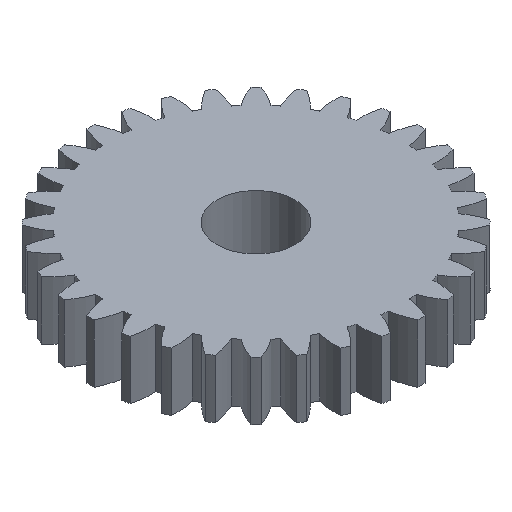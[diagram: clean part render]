
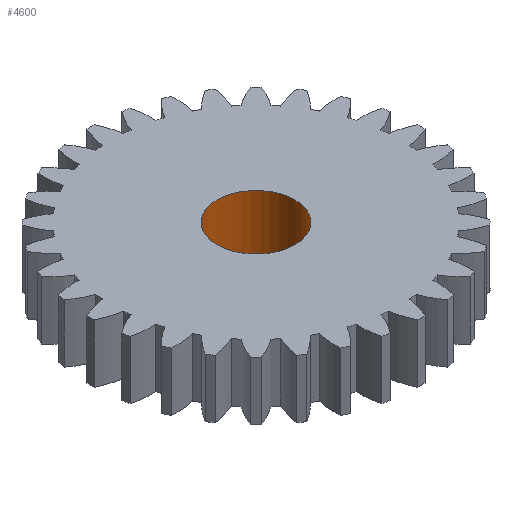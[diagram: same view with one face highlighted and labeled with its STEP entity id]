
A CAD part, isometric view. The second image highlights one B-rep face of the part: STEP entity #4600.
In plain terms, the highlighted free-form (B-spline) face has degree [1, 2] with [2, 9] control points.
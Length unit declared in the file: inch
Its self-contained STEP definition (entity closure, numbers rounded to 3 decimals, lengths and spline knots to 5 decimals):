
#3751=CARTESIAN_POINT('',(-0.125,0.,-0.1875));
#3752=VERTEX_POINT('',#3751);
#3753=CARTESIAN_POINT('',(0.0,0.0,-0.1875));
#3754=DIRECTION('',(0.0,0.0,1.0));
#3755=DIRECTION('',(1.0,0.0,0.0));
#3756=AXIS2_PLACEMENT_3D('',#3753,#3754,#3755);
#3757=CIRCLE('',#3756,0.125);
#3758=EDGE_CURVE('',#3752,#3752,#3757,.T.);
#4544=CARTESIAN_POINT('',(0.125,0.0,0.0));
#4545=VERTEX_POINT('',#4544);
#4546=CARTESIAN_POINT('',(0.0,0.0,0.0));
#4547=DIRECTION('',(0.0,0.0,-1.0));
#4548=DIRECTION('',(1.0,0.0,0.0));
#4549=AXIS2_PLACEMENT_3D('',#4546,#4547,#4548);
#4550=CIRCLE('',#4549,0.125);
#4551=EDGE_CURVE('',#4545,#4545,#4550,.T.);
#4568=CARTESIAN_POINT('',(-0.125,0.,0.0));
#4569=CARTESIAN_POINT('',(-0.125,0.,-0.1875));
#4570=CARTESIAN_POINT('',(-0.125,-0.125,0.0));
#4571=CARTESIAN_POINT('',(-0.125,-0.125,-0.1875));
#4572=CARTESIAN_POINT('',(0.,-0.125,0.0));
#4573=CARTESIAN_POINT('',(0.,-0.125,-0.1875));
#4574=CARTESIAN_POINT('',(0.125,-0.125,0.0));
#4575=CARTESIAN_POINT('',(0.125,-0.125,-0.1875));
#4576=CARTESIAN_POINT('',(0.125,0.,0.0));
#4577=CARTESIAN_POINT('',(0.125,0.,-0.1875));
#4578=CARTESIAN_POINT('',(0.125,0.125,0.0));
#4579=CARTESIAN_POINT('',(0.125,0.125,-0.1875));
#4580=CARTESIAN_POINT('',(0.,0.125,0.0));
#4581=CARTESIAN_POINT('',(0.,0.125,-0.1875));
#4582=CARTESIAN_POINT('',(-0.125,0.125,0.0));
#4583=CARTESIAN_POINT('',(-0.125,0.125,-0.1875));
#4584=CARTESIAN_POINT('',(-0.125,0.,0.0));
#4585=CARTESIAN_POINT('',(-0.125,0.,-0.1875));
#4593=(BOUNDED_SURFACE()B_SPLINE_SURFACE(1,2,((#4568,#4570,#4572,#4574,#4576,#4578,#4580,#4582,#4584),(#4569,#4571,#4573,#4575,#4577,#4579,#4581,#4583,#4585)),.UNSPECIFIED.,.F.,.T.,.U.)B_SPLINE_SURFACE_WITH_KNOTS((2,2),(3,2,2,2,3),(-10.53742,-9.03742),(0.0,0.19635,0.3927,0.58905,0.7854),.UNSPECIFIED.)GEOMETRIC_REPRESENTATION_ITEM()RATIONAL_B_SPLINE_SURFACE(((1.0,0.707,1.0,0.707,1.0,0.707,1.0,0.707,1.0),(1.0,0.707,1.0,0.707,1.0,0.707,1.0,0.707,1.0)))REPRESENTATION_ITEM('')SURFACE());
#4594=ORIENTED_EDGE('',*,*,#3758,.F.);
#4595=EDGE_LOOP('',(#4594));
#4596=FACE_OUTER_BOUND('',#4595,.T.);
#4597=ORIENTED_EDGE('',*,*,#4551,.F.);
#4598=EDGE_LOOP('',(#4597));
#4599=FACE_BOUND('',#4598,.T.);
#4600=ADVANCED_FACE('',(#4596,#4599),#4593,.F.);
